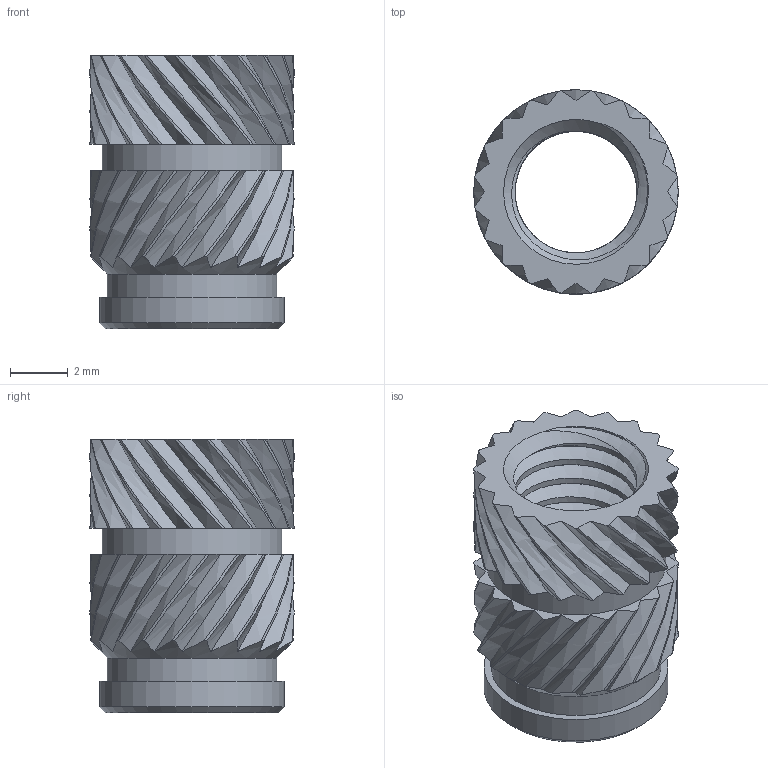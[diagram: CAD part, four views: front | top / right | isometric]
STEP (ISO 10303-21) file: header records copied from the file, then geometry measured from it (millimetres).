
FILE_DESCRIPTION(/* description */ (''),/* implementation_level */ '2;1');
FILE_NAME(/* name */ 'C:/Users/stefa/Desktop/Sync/Podcast/Produkte/Inserts/CAD/M5_Standard.step',/* time_stamp */ '2021-08-31T17:20:44+02:00',/* author */ (''),/* organization */ (''),/* preprocessor_version */ 'ST-DEVELOPER v18.1',/* originating_system */ 'Autodesk Translation Framework v10.10.0.1391',/* authorisation */ '');
FILE_SCHEMA (('AUTOMOTIVE_DESIGN { 1 0 10303 214 3 1 1 }'));
Length unit declared in the file: millimetre
Products named in the file (1): Insert_M5
Bounding box: 7.1 x 7.1 x 9.5 mm (x, y, z)
Volume: 162.4 mm3; surface area: 519.3 mm2
Topology: 1 solids, 12 shells, 352 faces, 974 edges, 649 vertices
Faces by surface type: bspline 183, plane 94, cylinder 68, cone 7
Full cylindrical faces by diameter (mm): 4.234 x6, 5.12 x3, 5.9 x1, 6.25 x1, 6.4 x1
Entity records: 15507 total; most frequent: CARTESIAN_POINT 8007, ORIENTED_EDGE 1948, EDGE_CURVE 974, DIRECTION 867, VERTEX_POINT 649, B_SPLINE_CURVE_WITH_KNOTS 544, EDGE_LOOP 359, FACE_OUTER_BOUND 352
